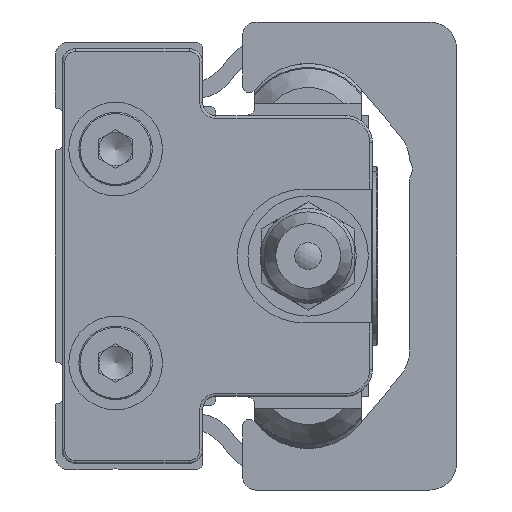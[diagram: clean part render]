
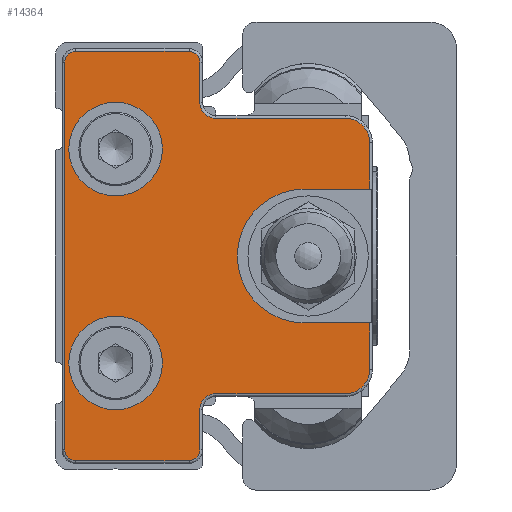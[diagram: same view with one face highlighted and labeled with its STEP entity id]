
A CAD part, left-side view. The second image highlights one B-rep face of the part: STEP entity #14364.
In plain terms, the highlighted planar face has unit normal (-1, 0, 0) as drawn and (0, 0, 1) by its records, which use the part's own axes.
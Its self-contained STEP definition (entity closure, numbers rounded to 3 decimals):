
#733=PLANE('',#15988);
#1701=LINE('',#24596,#2722);
#1702=LINE('',#24599,#2723);
#1703=LINE('',#24603,#2724);
#1704=LINE('',#24607,#2725);
#1705=LINE('',#24611,#2726);
#1706=LINE('',#24615,#2727);
#1707=LINE('',#24619,#2728);
#1708=LINE('',#24623,#2729);
#1709=LINE('',#24627,#2730);
#1710=LINE('',#24631,#2731);
#1711=LINE('',#24633,#2732);
#2722=VECTOR('',#20019,1000.);
#2723=VECTOR('',#20020,1000.);
#2724=VECTOR('',#20023,1000.);
#2725=VECTOR('',#20026,1000.);
#2726=VECTOR('',#20029,1000.);
#2727=VECTOR('',#20032,1000.);
#2728=VECTOR('',#20035,1000.);
#2729=VECTOR('',#20038,1000.);
#2730=VECTOR('',#20041,1000.);
#2731=VECTOR('',#20044,1000.);
#2732=VECTOR('',#20045,1000.);
#6134=ORIENTED_EDGE('',*,*,#8386,.F.);
#6135=ORIENTED_EDGE('',*,*,#8387,.F.);
#6136=ORIENTED_EDGE('',*,*,#8388,.F.);
#6137=ORIENTED_EDGE('',*,*,#8389,.T.);
#6138=ORIENTED_EDGE('',*,*,#8390,.T.);
#6139=ORIENTED_EDGE('',*,*,#8391,.T.);
#6140=ORIENTED_EDGE('',*,*,#8392,.T.);
#6141=ORIENTED_EDGE('',*,*,#8393,.T.);
#6142=ORIENTED_EDGE('',*,*,#8394,.T.);
#6143=ORIENTED_EDGE('',*,*,#8395,.T.);
#6144=ORIENTED_EDGE('',*,*,#8396,.T.);
#6145=ORIENTED_EDGE('',*,*,#8397,.T.);
#6146=ORIENTED_EDGE('',*,*,#8398,.T.);
#6147=ORIENTED_EDGE('',*,*,#8399,.T.);
#6148=ORIENTED_EDGE('',*,*,#8400,.T.);
#6149=ORIENTED_EDGE('',*,*,#8401,.T.);
#6150=ORIENTED_EDGE('',*,*,#8402,.T.);
#6151=ORIENTED_EDGE('',*,*,#8403,.T.);
#6152=ORIENTED_EDGE('',*,*,#8404,.T.);
#6153=ORIENTED_EDGE('',*,*,#8405,.T.);
#6154=ORIENTED_EDGE('',*,*,#8406,.F.);
#6155=ORIENTED_EDGE('',*,*,#8407,.F.);
#8386=EDGE_CURVE('',#9869,#9869,#10713,.T.);
#8387=EDGE_CURVE('',#9870,#9870,#10714,.T.);
#8388=EDGE_CURVE('',#9871,#9872,#1701,.T.);
#8389=EDGE_CURVE('',#9871,#9873,#1702,.T.);
#8390=EDGE_CURVE('',#9873,#9874,#10715,.T.);
#8391=EDGE_CURVE('',#9874,#9875,#1703,.T.);
#8392=EDGE_CURVE('',#9875,#9876,#10716,.F.);
#8393=EDGE_CURVE('',#9876,#9877,#1704,.T.);
#8394=EDGE_CURVE('',#9877,#9878,#10717,.T.);
#8395=EDGE_CURVE('',#9878,#9879,#1705,.T.);
#8396=EDGE_CURVE('',#9879,#9880,#10718,.T.);
#8397=EDGE_CURVE('',#9880,#9881,#1706,.T.);
#8398=EDGE_CURVE('',#9881,#9882,#10719,.T.);
#8399=EDGE_CURVE('',#9882,#9883,#1707,.T.);
#8400=EDGE_CURVE('',#9883,#9884,#10720,.T.);
#8401=EDGE_CURVE('',#9884,#9885,#1708,.T.);
#8402=EDGE_CURVE('',#9885,#9886,#10721,.F.);
#8403=EDGE_CURVE('',#9886,#9887,#1709,.T.);
#8404=EDGE_CURVE('',#9887,#9888,#10722,.T.);
#8405=EDGE_CURVE('',#9888,#9889,#1710,.T.);
#8406=EDGE_CURVE('',#9890,#9889,#1711,.T.);
#8407=EDGE_CURVE('',#9872,#9890,#10723,.T.);
#9869=VERTEX_POINT('',#24593);
#9870=VERTEX_POINT('',#24595);
#9871=VERTEX_POINT('',#24597);
#9872=VERTEX_POINT('',#24598);
#9873=VERTEX_POINT('',#24600);
#9874=VERTEX_POINT('',#24602);
#9875=VERTEX_POINT('',#24604);
#9876=VERTEX_POINT('',#24606);
#9877=VERTEX_POINT('',#24608);
#9878=VERTEX_POINT('',#24610);
#9879=VERTEX_POINT('',#24612);
#9880=VERTEX_POINT('',#24614);
#9881=VERTEX_POINT('',#24616);
#9882=VERTEX_POINT('',#24618);
#9883=VERTEX_POINT('',#24620);
#9884=VERTEX_POINT('',#24622);
#9885=VERTEX_POINT('',#24624);
#9886=VERTEX_POINT('',#24626);
#9887=VERTEX_POINT('',#24628);
#9888=VERTEX_POINT('',#24630);
#9889=VERTEX_POINT('',#24632);
#9890=VERTEX_POINT('',#24634);
#10713=CIRCLE('',#15989,3.5);
#10714=CIRCLE('',#15990,3.5);
#10715=CIRCLE('',#15991,1.8);
#10716=CIRCLE('',#15992,1.2);
#10717=CIRCLE('',#15993,0.8);
#10718=CIRCLE('',#15994,0.8);
#10719=CIRCLE('',#15995,0.8);
#10720=CIRCLE('',#15996,0.8);
#10721=CIRCLE('',#15997,1.2);
#10722=CIRCLE('',#15998,1.8);
#10723=CIRCLE('',#15999,5.);
#11892=EDGE_LOOP('',(#6134));
#11893=EDGE_LOOP('',(#6135));
#11894=EDGE_LOOP('',(#6136,#6137,#6138,#6139,#6140,#6141,#6142,#6143,#6144,
#6145,#6146,#6147,#6148,#6149,#6150,#6151,#6152,#6153,#6154,#6155));
#13142=FACE_BOUND('',#11892,.T.);
#13143=FACE_BOUND('',#11893,.T.);
#13144=FACE_BOUND('',#11894,.T.);
#14364=ADVANCED_FACE('',(#13142,#13143,#13144),#733,.T.);
#15988=AXIS2_PLACEMENT_3D('',#24591,#20013,#20014);
#15989=AXIS2_PLACEMENT_3D('',#24592,#20015,#20016);
#15990=AXIS2_PLACEMENT_3D('',#24594,#20017,#20018);
#15991=AXIS2_PLACEMENT_3D('',#24601,#20021,#20022);
#15992=AXIS2_PLACEMENT_3D('',#24605,#20024,#20025);
#15993=AXIS2_PLACEMENT_3D('',#24609,#20027,#20028);
#15994=AXIS2_PLACEMENT_3D('',#24613,#20030,#20031);
#15995=AXIS2_PLACEMENT_3D('',#24617,#20033,#20034);
#15996=AXIS2_PLACEMENT_3D('',#24621,#20036,#20037);
#15997=AXIS2_PLACEMENT_3D('',#24625,#20039,#20040);
#15998=AXIS2_PLACEMENT_3D('',#24629,#20042,#20043);
#15999=AXIS2_PLACEMENT_3D('',#24635,#20046,#20047);
#20013=DIRECTION('',(0.,0.,1.));
#20014=DIRECTION('',(1.,0.,0.));
#20015=DIRECTION('',(0.,0.,1.));
#20016=DIRECTION('',(1.,0.,0.));
#20017=DIRECTION('',(0.,0.,1.));
#20018=DIRECTION('',(1.,0.,0.));
#20019=DIRECTION('',(0.,1.,0.));
#20020=DIRECTION('',(1.,0.,0.));
#20021=DIRECTION('',(0.,0.,1.));
#20022=DIRECTION('',(1.,0.,0.));
#20023=DIRECTION('',(0.,1.,0.));
#20024=DIRECTION('',(0.,0.,1.));
#20025=DIRECTION('',(1.,0.,0.));
#20026=DIRECTION('',(1.,0.,0.));
#20027=DIRECTION('',(0.,0.,1.));
#20028=DIRECTION('',(1.,0.,0.));
#20029=DIRECTION('',(0.,1.,0.));
#20030=DIRECTION('',(0.,0.,1.));
#20031=DIRECTION('',(1.,0.,0.));
#20032=DIRECTION('',(-1.,0.,0.));
#20033=DIRECTION('',(0.,0.,1.));
#20034=DIRECTION('',(1.,0.,0.));
#20035=DIRECTION('',(0.,-1.,0.));
#20036=DIRECTION('',(0.,0.,1.));
#20037=DIRECTION('',(1.,0.,0.));
#20038=DIRECTION('',(1.,0.,0.));
#20039=DIRECTION('',(0.,0.,1.));
#20040=DIRECTION('',(1.,0.,0.));
#20041=DIRECTION('',(0.,-1.,0.));
#20042=DIRECTION('',(0.,0.,1.));
#20043=DIRECTION('',(1.,0.,0.));
#20044=DIRECTION('',(1.,0.,0.));
#20045=DIRECTION('',(0.,-1.,0.));
#20046=DIRECTION('',(0.,0.,1.));
#20047=DIRECTION('',(1.,0.,0.));
#24591=CARTESIAN_POINT('',(-14.5,-9.5,4.8));
#24592=CARTESIAN_POINT('',(-8.,-4.,4.8));
#24593=CARTESIAN_POINT('',(-4.5,-4.,4.8));
#24594=CARTESIAN_POINT('',(8.,-4.,4.8));
#24595=CARTESIAN_POINT('',(11.5,-4.,4.8));
#24596=CARTESIAN_POINT('',(5.,-24.1,4.8));
#24597=CARTESIAN_POINT('',(5.,-23.,4.8));
#24598=CARTESIAN_POINT('',(5.,-18.1,4.8));
#24599=CARTESIAN_POINT('',(8.5,-23.,4.8));
#24600=CARTESIAN_POINT('',(8.5,-23.,4.8));
#24601=CARTESIAN_POINT('',(8.5,-21.2,4.8));
#24602=CARTESIAN_POINT('',(10.3,-21.2,4.8));
#24603=CARTESIAN_POINT('',(10.3,-11.5,4.8));
#24604=CARTESIAN_POINT('',(10.3,-11.5,4.8));
#24605=CARTESIAN_POINT('',(11.5,-11.5,4.8));
#24606=CARTESIAN_POINT('',(11.5,-10.3,4.8));
#24607=CARTESIAN_POINT('',(14.5,-10.3,4.8));
#24608=CARTESIAN_POINT('',(14.5,-10.3,4.8));
#24609=CARTESIAN_POINT('',(14.5,-9.5,4.8));
#24610=CARTESIAN_POINT('',(15.3,-9.5,4.8));
#24611=CARTESIAN_POINT('',(15.3,-1.,4.8));
#24612=CARTESIAN_POINT('',(15.3,-1.,4.8));
#24613=CARTESIAN_POINT('',(14.5,-1.,4.8));
#24614=CARTESIAN_POINT('',(14.5,-0.2,4.8));
#24615=CARTESIAN_POINT('',(-14.5,-0.2,4.8));
#24616=CARTESIAN_POINT('',(-14.5,-0.2,4.8));
#24617=CARTESIAN_POINT('',(-14.5,-1.,4.8));
#24618=CARTESIAN_POINT('',(-15.3,-1.,4.8));
#24619=CARTESIAN_POINT('',(-15.3,-9.5,4.8));
#24620=CARTESIAN_POINT('',(-15.3,-9.5,4.8));
#24621=CARTESIAN_POINT('',(-14.5,-9.5,4.8));
#24622=CARTESIAN_POINT('',(-14.5,-10.3,4.8));
#24623=CARTESIAN_POINT('',(-11.5,-10.3,4.8));
#24624=CARTESIAN_POINT('',(-11.5,-10.3,4.8));
#24625=CARTESIAN_POINT('',(-11.5,-11.5,4.8));
#24626=CARTESIAN_POINT('',(-10.3,-11.5,4.8));
#24627=CARTESIAN_POINT('',(-10.3,-21.2,4.8));
#24628=CARTESIAN_POINT('',(-10.3,-21.2,4.8));
#24629=CARTESIAN_POINT('',(-8.5,-21.2,4.8));
#24630=CARTESIAN_POINT('',(-8.5,-23.,4.8));
#24631=CARTESIAN_POINT('',(-5.,-23.,4.8));
#24632=CARTESIAN_POINT('',(-5.,-23.,4.8));
#24633=CARTESIAN_POINT('',(-5.,-18.1,4.8));
#24634=CARTESIAN_POINT('',(-5.,-18.1,4.8));
#24635=CARTESIAN_POINT('',(0.,-18.1,4.8));
